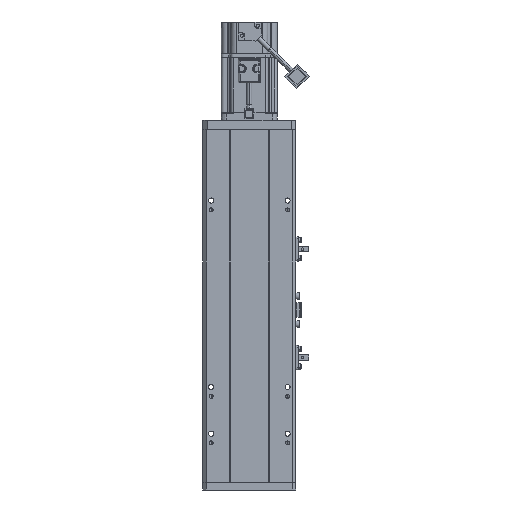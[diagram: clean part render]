
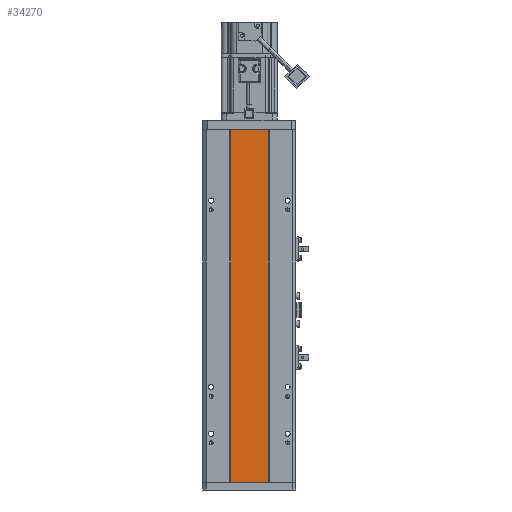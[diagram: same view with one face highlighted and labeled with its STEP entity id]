
A CAD part, front view. The second image highlights one B-rep face of the part: STEP entity #34270.
In plain terms, the highlighted planar face has unit normal (0, -1, 0).
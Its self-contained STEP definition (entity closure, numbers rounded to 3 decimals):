
#4092 = LINE ( 'NONE', #44911, #55820 ) ;
#4633 = DIRECTION ( 'NONE',  ( 0., 0., 1. ) ) ;
#7525 = DIRECTION ( 'NONE',  ( -1., 0., 0. ) ) ;
#7529 = DIRECTION ( 'NONE',  ( -1., 0., 0. ) ) ;
#11574 = PLANE ( 'NONE',  #23662 ) ;
#14890 = VECTOR ( 'NONE', #7525, 1000. ) ;
#22146 = EDGE_LOOP ( 'NONE', ( #64478, #64560, #65061, #84884 ) ) ;
#23662 = AXIS2_PLACEMENT_3D ( 'NONE', #25090, #72385, #31845 ) ;
#25090 = CARTESIAN_POINT ( 'NONE',  ( 20., 0., -378.5 ) ) ;
#31845 = DIRECTION ( 'NONE',  ( -1., 0., 0. ) ) ;
#32885 = CARTESIAN_POINT ( 'NONE',  ( 20., 0., 0. ) ) ;
#33210 = CARTESIAN_POINT ( 'NONE',  ( 20., 0., -378.5 ) ) ;
#34270 = ADVANCED_FACE ( 'NONE', ( #61344 ), #11574, .F. ) ;
#34275 = CARTESIAN_POINT ( 'NONE',  ( 20., 0., -378.5 ) ) ;
#37125 = CARTESIAN_POINT ( 'NONE',  ( 20., 0., -378.5 ) ) ;
#37417 = DIRECTION ( 'NONE',  ( 0., 0., 1. ) ) ;
#40849 = CARTESIAN_POINT ( 'NONE',  ( -20., 0., -378.5 ) ) ;
#44434 = EDGE_CURVE ( 'NONE', #56422, #76816, #66966, .T. ) ;
#44911 = CARTESIAN_POINT ( 'NONE',  ( -20., 0., -378.5 ) ) ;
#46844 = VERTEX_POINT ( 'NONE', #58169 ) ;
#48360 = VECTOR ( 'NONE', #37417, 1000. ) ;
#49295 = LINE ( 'NONE', #37125, #48360 ) ;
#50791 = LINE ( 'NONE', #54675, #14890 ) ;
#54675 = CARTESIAN_POINT ( 'NONE',  ( 20., 0., 0. ) ) ;
#55820 = VECTOR ( 'NONE', #4633, 1000. ) ;
#56422 = VERTEX_POINT ( 'NONE', #33210 ) ;
#57728 = EDGE_CURVE ( 'NONE', #56422, #69485, #49295, .T. ) ;
#58169 = CARTESIAN_POINT ( 'NONE',  ( -20., 0., 0. ) ) ;
#61344 = FACE_OUTER_BOUND ( 'NONE', #22146, .T. ) ;
#63815 = EDGE_CURVE ( 'NONE', #76816, #46844, #4092, .T. ) ;
#64478 = ORIENTED_EDGE ( 'NONE', *, *, #73668, .T. ) ;
#64560 = ORIENTED_EDGE ( 'NONE', *, *, #63815, .F. ) ;
#65061 = ORIENTED_EDGE ( 'NONE', *, *, #44434, .F. ) ;
#66786 = VECTOR ( 'NONE', #7529, 1000. ) ;
#66966 = LINE ( 'NONE', #34275, #66786 ) ;
#69485 = VERTEX_POINT ( 'NONE', #32885 ) ;
#72385 = DIRECTION ( 'NONE',  ( 0., 1., 0. ) ) ;
#73668 = EDGE_CURVE ( 'NONE', #69485, #46844, #50791, .T. ) ;
#76816 = VERTEX_POINT ( 'NONE', #40849 ) ;
#84884 = ORIENTED_EDGE ( 'NONE', *, *, #57728, .T. ) ;
